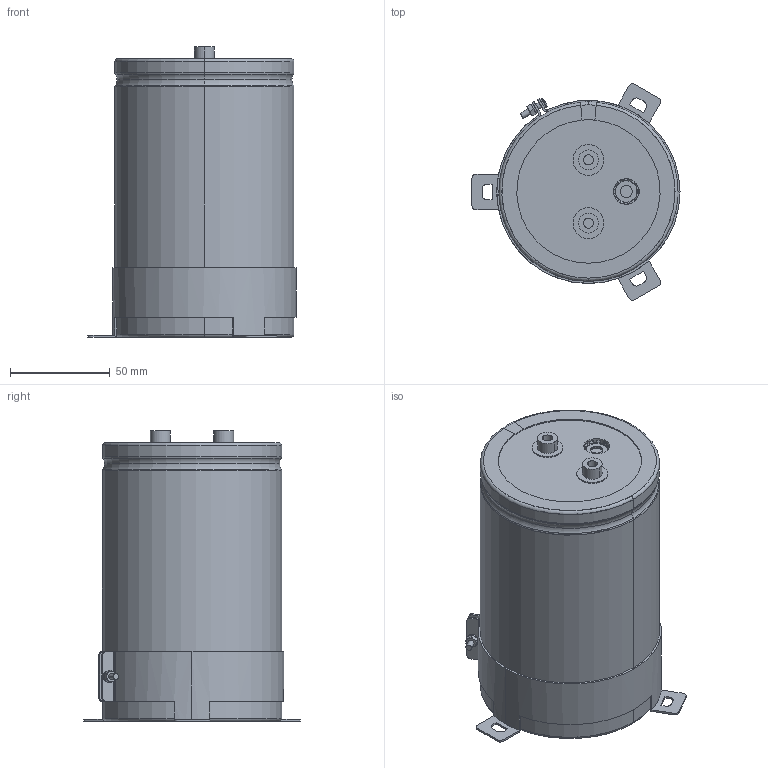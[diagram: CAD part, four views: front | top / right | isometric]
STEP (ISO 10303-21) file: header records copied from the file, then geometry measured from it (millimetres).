
FILE_DESCRIPTION(('STEP AP214'),'1');
FILE_NAME('90x140_Screw.stp','2022-03-14T08:58:55',(' '),(' '),'Spatial InterOp 3D',' ',' ');
FILE_SCHEMA(('AUTOMOTIVE_DESIGN { 1 0 10303 214 1 1 1 1 }'));
Length unit declared in the file: metre
Products named in the file (10): 90x140_Screw; Component1; Component2; Component3; Component4; Component5; Component6; Component7; Component8; Component9
Assembly tree (9 placements, depth 2):
  90x140_Screw
    Component1
    Component2
    Component3
    Component4
    Component5
    Component6
    Component7
    Component8
    Component9
Bounding box: 104.5 x 108.86 x 146 mm (x, y, z)
Volume: 893201.9 mm3; surface area: 158276.5 mm2
Topology: 9 solids, 9 shells, 352 faces, 873 edges, 551 vertices
Faces by surface type: plane 112, cylinder 110, torus 90, cone 38, sphere 2
Entity records: 11474 total; most frequent: DIRECTION 2126, CARTESIAN_POINT 1918, ORIENTED_EDGE 1746, AXIS2_PLACEMENT_3D 919, EDGE_CURVE 873, VERTEX_POINT 551, CIRCLE 511, EDGE_LOOP 380
